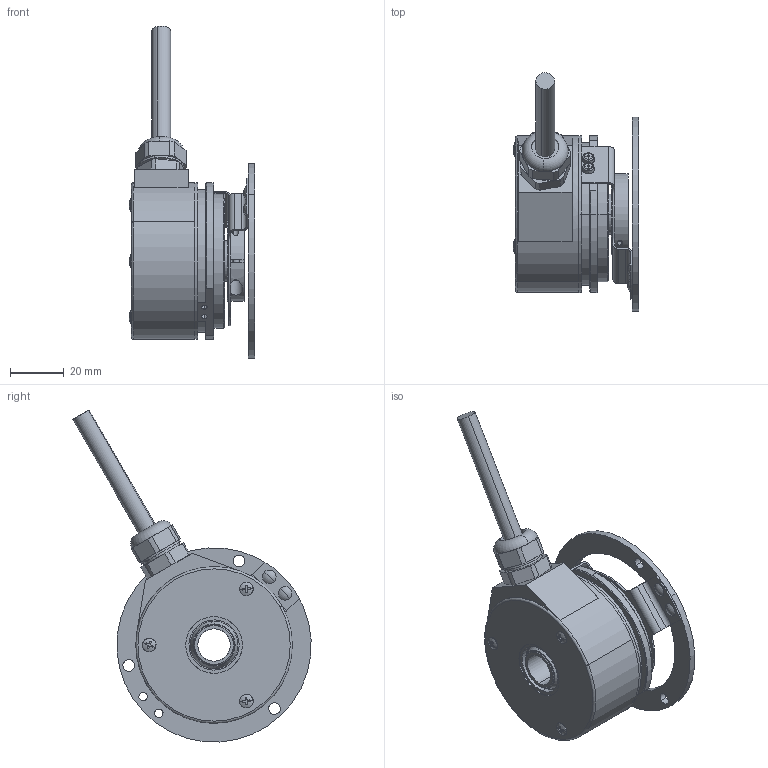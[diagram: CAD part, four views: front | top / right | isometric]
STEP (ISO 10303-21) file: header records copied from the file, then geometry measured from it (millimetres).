
FILE_DESCRIPTION (( 'STEP AP214' ), '1' );
FILE_NAME ('5825.38X1.XXXX.STEP', '2009-04-28T07:28:08', ( 'admin' ), ( 'Fritz Kübler GmbH' ), 'SwSTEP 2.0', 'SolidWorks 2009', '' );
FILE_SCHEMA (( 'AUTOMOTIVE_DESIGN' ));
Length unit declared in the file: millimetre
Products named in the file (1): 5825.38X1.XXXX
Bounding box: 46.58 x 88.2 x 122.97 mm (x, y, z)
Volume: 58990.8 mm3; surface area: 45875.2 mm2
Topology: 22 solids, 22 shells, 633 faces, 1510 edges, 941 vertices
Faces by surface type: plane 237, cylinder 236, cone 114, torus 36, sphere 10
Entity records: 25866 total; most frequent: CARTESIAN_POINT 3573, DIRECTION 3370, ORIENTED_EDGE 2964, EDGE_CURVE 1482, AXIS2_PLACEMENT_3D 1318, VERTEX_POINT 941, EDGE_LOOP 737, LINE 734
